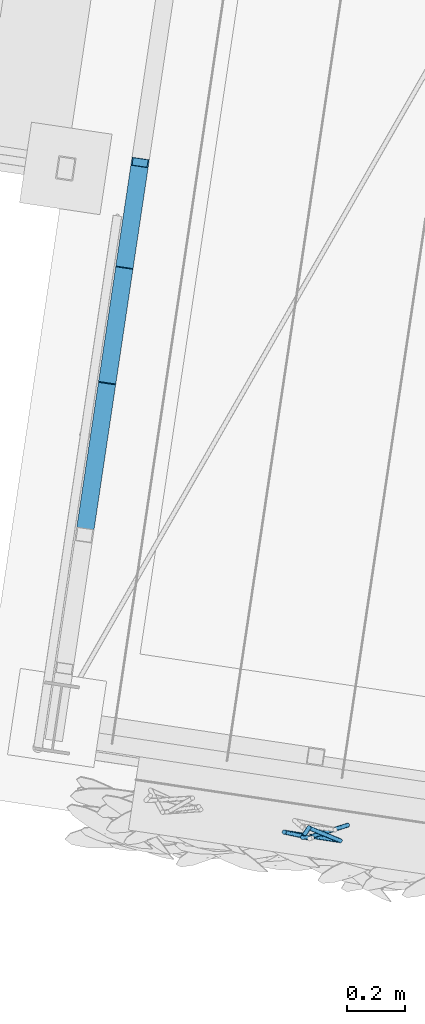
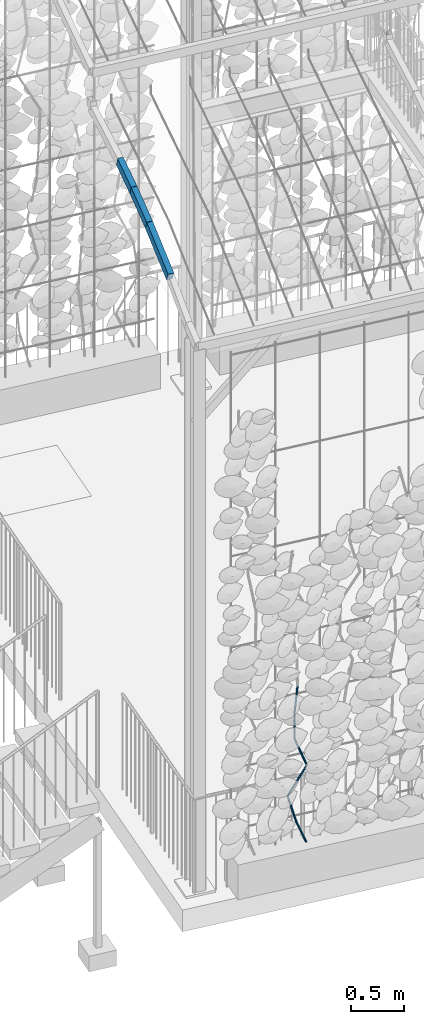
# One storey, part 106 of 142: 9 members, 2 elements without a shape of their own.
"""IFC4 building model written with IfcOpenShell, lengths in metres."""

from ifc_helpers import new_model, si_unit, direction, frame, origin_with_axes, place, context, subcontext, project, spatial, hollow_rectangle, circle, extrude, material, material_profile, profile_set, profile_usage, type_object, element, aggregate, save


model = new_model("IFC4")

# Units and contexts
model_context = context("Model", 3, precision=1e-05, world=origin_with_axes(), true_north=direction((0.0, 1.0)))
body_context = subcontext(model_context, "Body", "Model", "MODEL_VIEW")
ifc_project = project(units=[si_unit("AREAUNIT", "SQUARE_METRE"), si_unit("VOLUMEUNIT", "CUBIC_METRE"), si_unit("LENGTHUNIT", "METRE")], contexts=[model_context])

# Site, building, storey
site_placement = place(None, origin_with_axes())
site = spatial("IfcSite", under=ifc_project, at=site_placement, Name="Lares · Rua das Mercês · artigo 4771")
building_placement = place(site_placement, frame((15.0, 9.7, 14.65), z_axis=(0.0, 0.0, 1.0), x_axis=(0.989015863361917, -0.147809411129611, 0.0)))
building = spatial("IfcBuilding", under=site, at=building_placement, Name="Casa Sobreposta")
storey_placement = place(building_placement, origin_with_axes())
storey = spatial("IfcBuildingStorey", under=building, at=storey_placement, Name="00 · Habitação e estacionamento", Elevation=14.65)

# Assembly, members
assembly_1_placement = place(storey_placement, origin_with_axes())
assembly_1 = element("IfcElementAssembly", 1, at=assembly_1_placement, inside=storey, Name="Pérgola · prolongamento da estufa 6 m", ObjectType="PERGOLA_GREENHOUSE_EXTENSION", PredefinedType="USERDEFINED")
ifc_material_1 = material(Name="Aço pintado / Stahl lackiert", Category="steel")
ifc_material_profile_1 = material_profile(ifc_material_1, hollow_rectangle(XDim=0.06, YDim=0.1, WallThickness=0.004))
ifc_profile_set_1 = profile_set([ifc_material_profile_1], Name="RHS100x60x4")
ifc_profile_usage_1 = profile_usage(ifc_profile_set_1)
member_type_1 = type_object("IfcMemberType", Name="RHS100x60x4 / steel", PredefinedType="NOTDEFINED", material=ifc_profile_set_1)
member_1_placement = place(assembly_1_placement, frame((-6.0, -0.803062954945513, 6.57613537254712), z_axis=(0.0, 0.915885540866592, 0.401439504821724), x_axis=(1.0, 0.0, 0.0)))
member_1 = element("IfcMember", 2, at=member_1_placement, type_object=member_type_1, material=ifc_profile_usage_1, Name="Pérgola · arco contínuo com a estufa", context=body_context, shape_type="SweptSolid", body=[
    extrude(hollow_rectangle(XDim=0.06, YDim=0.1, WallThickness=0.004), origin_with_axes(), (0.0, 0.0, 1.0), 0.596771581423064),
])
ifc_profile_usage_2 = profile_usage(ifc_profile_set_1)
member_2_placement = place(assembly_1_placement, frame((-6.0, -0.256488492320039, 6.81570306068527), z_axis=(0.0, 0.942820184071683, 0.333301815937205), x_axis=(1.0, 0.0, 0.0)))
member_2 = element("IfcMember", 3, at=member_2_placement, type_object=member_type_1, material=ifc_profile_usage_2, Name="Pérgola · arco contínuo com a estufa", context=body_context, shape_type="SweptSolid", body=[
    extrude(hollow_rectangle(XDim=0.06, YDim=0.1, WallThickness=0.004), origin_with_axes(), (0.0, 0.0, 1.0), 0.423025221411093),
])
ifc_profile_usage_3 = profile_usage(ifc_profile_set_1)
member_3_placement = place(assembly_1_placement, frame((-6.0, 0.142348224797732, 6.95669813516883), z_axis=(0.0, 0.959692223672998, 0.281053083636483), x_axis=(1.0, 0.0, 0.0)))
member_3 = element("IfcMember", 4, at=member_3_placement, type_object=member_type_1, material=ifc_profile_usage_3, Name="Pérgola · arco contínuo com a estufa", context=body_context, shape_type="SweptSolid", body=[
    extrude(hollow_rectangle(XDim=0.06, YDim=0.1, WallThickness=0.004), origin_with_axes(), (0.0, 0.0, 1.0), 0.365557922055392),
])
aggregate(assembly_1, [member_1, member_2, member_3])

assembly_2_placement = place(storey_placement, origin_with_axes())
assembly_2 = element("IfcElementAssembly", 5, at=assembly_2_placement, inside=storey, Name="Fachada sul e pátio · estrutura e trepadeiras", ObjectType="LIVING_SHADE_TRELLIS", PredefinedType="USERDEFINED")
ifc_material_2 = material(Name="Ramos de trepadeiras", Category="wood")
ifc_material_profile_2 = material_profile(ifc_material_2, circle(Radius=0.0075))
ifc_profile_set_2 = profile_set([ifc_material_profile_2], Name="D0.015")
ifc_profile_usage_4 = profile_usage(ifc_profile_set_2)
member_type_2 = type_object("IfcMemberType", Name="D0.015 / vine_wood", PredefinedType="NOTDEFINED", material=ifc_profile_set_2)
member_4_placement = place(assembly_2_placement, frame((-4.95624243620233, -1.65711223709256, 0.35), z_axis=(-0.372606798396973, -0.180190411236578, 0.910327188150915), x_axis=(-0.435358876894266, 0.90025699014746, 0.0)))
member_4 = element("IfcMember", 6, at=member_4_placement, type_object=member_type_2, material=ifc_profile_usage_4, Name="Trepadeiras · ramo", context=body_context, shape_type="SweptSolid", body=[
    extrude(circle(Radius=0.0075), origin_with_axes(), (0.0, 0.0, 1.0), 0.340683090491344),
])
ifc_profile_usage_5 = profile_usage(ifc_profile_set_2)
member_5_placement = place(assembly_2_placement, frame((-5.0831832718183, -1.71850006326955, 0.660133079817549), z_axis=(-0.265741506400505, 0.0171143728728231, 0.963892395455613), x_axis=(0.0642691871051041, 0.997932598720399, 0.0)))
member_5 = element("IfcMember", 7, at=member_5_placement, type_object=member_type_2, material=ifc_profile_usage_5, Name="Trepadeiras · ramo", context=body_context, shape_type="SweptSolid", body=[
    extrude(circle(Radius=0.0075), origin_with_axes(), (0.0, 0.0, 1.0), 0.321750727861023),
])
ifc_profile_usage_6 = profile_usage(ifc_profile_set_2)
member_6_placement = place(assembly_2_placement, frame((-5.16868579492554, -1.71299350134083, 0.970266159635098), z_axis=(0.532535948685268, -0.00176824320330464, 0.84640553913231), x_axis=(-0.00332040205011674, -0.999994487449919, 0.0)))
member_6 = element("IfcMember", 8, at=member_6_placement, type_object=member_type_2, material=ifc_profile_usage_6, Name="Trepadeiras · ramo", context=body_context, shape_type="SweptSolid", body=[
    extrude(circle(Radius=0.0075), origin_with_axes(), (0.0, 0.0, 1.0), 0.366411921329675),
])
ifc_profile_usage_7 = profile_usage(ifc_profile_set_2)
member_7_placement = place(assembly_2_placement, frame((-4.97355827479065, -1.71364140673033, 1.28039923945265), z_axis=(-0.342385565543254, 0.0839938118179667, 0.935797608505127), x_axis=(0.238254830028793, 0.971202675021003, 0.0)))
member_7 = element("IfcMember", 9, at=member_7_placement, type_object=member_type_2, material=ifc_profile_usage_7, Name="Trepadeiras · ramo", context=body_context, shape_type="SweptSolid", body=[
    extrude(circle(Radius=0.0075), origin_with_axes(), (0.0, 0.0, 1.0), 0.331410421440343),
])
ifc_profile_usage_8 = profile_usage(ifc_profile_set_2)
member_8_placement = place(assembly_2_placement, frame((-5.08702841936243, -1.68580498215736, 1.5905323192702), z_axis=(-0.0515930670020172, -0.113887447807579, 0.992153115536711), x_axis=(-0.910889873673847, 0.412649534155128, 0.0)))
member_8 = element("IfcMember", 10, at=member_8_placement, type_object=member_type_2, material=ifc_profile_usage_8, Name="Trepadeiras · ramo", context=body_context, shape_type="SweptSolid", body=[
    extrude(circle(Radius=0.0075), origin_with_axes(), (0.0, 0.0, 1.0), 0.312585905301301),
])
ifc_profile_usage_9 = profile_usage(ifc_profile_set_2)
member_9_placement = place(assembly_2_placement, frame((-5.10315568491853, -1.72140459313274, 1.90066539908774), z_axis=(0.1015760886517, 0.00912740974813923, 0.994785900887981), x_axis=(0.0894972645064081, -0.995987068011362, 0.0)))
member_9 = element("IfcMember", 11, at=member_9_placement, type_object=member_type_2, material=ifc_profile_usage_9, Name="Trepadeiras · ramo", context=body_context, shape_type="SweptSolid", body=[
    extrude(circle(Radius=0.0075), origin_with_axes(), (0.0, 0.0, 1.0), 0.3117586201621),
])
aggregate(assembly_2, [member_4, member_5, member_6, member_7, member_8, member_9])

save(model, "model.ifc")
